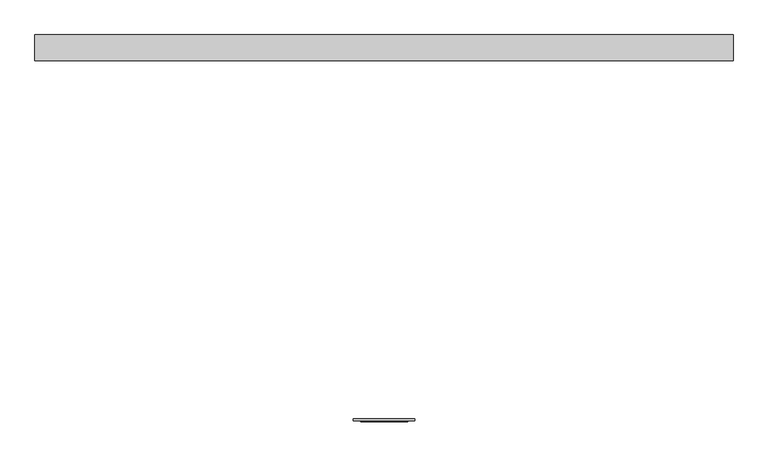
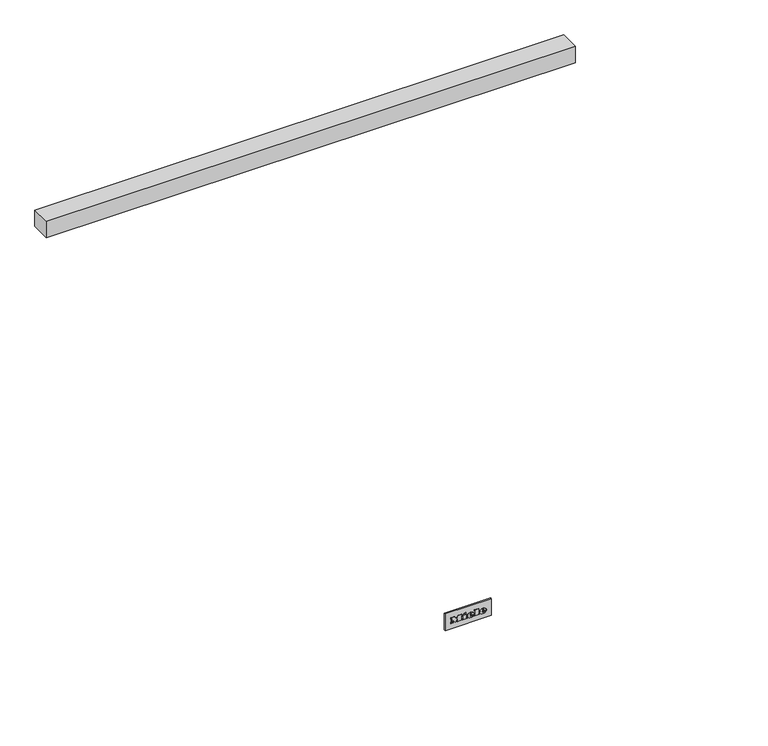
"""IFC4 building model written with IfcOpenShell, lengths in millimetres: proxy geometry, 11791680_USA_HR1954-3LP_EDST-CLS : 25195482_USA_11791680_HR1954-3LP_EDST-CLS."""

from ifc_helpers import new_model, si_unit, point, frame, frame_2d, origin, place, context, project, spatial, polyline, circle_curve, ellipse_curve, trimmed, segment, composite_curve, outline, extrude, source, transform, mapped, element, save
from ifc_brep_helpers import plane_surface, cylinder_surface, revolved_surface, extruded_surface, advanced_brep


def specialty_equipment_3d400751(model_context):
    return source(origin(), model_context, "Body", "SolidModel", [
        advanced_brep(
        [(32.17, -676.0, 148.1995), (32.17, -676.0, 149.563), (41.2015, -676.0, 149.563), (25.4875, -676.0, 149.563), (29.2, -676.0, 145.0), (40.972, -676.0, 148.1995), (36.895, -676.0, 148.1995), (33.682, -676.0, 146.6875), (32.17, -676.0, 151.291), (32.17, -676.0, 152.7625), (34.4785, -676.0, 152.7625), (34.4785, -676.0, 151.291), (32.17, -675.0, 148.1995), (33.682, -675.0, 146.6875), (36.895, -675.0, 148.1995), (40.972, -675.0, 148.1995), (29.2, -675.0, 145.0), (25.4875, -675.0, 149.563), (41.2015, -675.0, 149.563), (32.17, -675.0, 149.563), (32.17, -675.0, 151.291), (34.4785, -675.0, 151.291), (34.4785, -675.0, 152.7625), (32.17, -675.0, 152.7625)],
        [
            (0, 1),
            (1, 2),
            (2, 3, ellipse_curve(frame((33.3445, -676.0, 149.563), z_axis=(0.0, -1.0, 0.0), x_axis=(-1.0, 0.0, 0.0)), 7.857, 6.4935)),
            (3, 4, circle_curve(frame((30.7120736, -676.0, 150.022), z_axis=(0.0, -1.0, 0.0), x_axis=(0.0, 0.0, -1.0)), 5.2446974)),
            (4, 5, circle_curve(frame((33.1872142, -676.0, 153.586), z_axis=(0.0, -1.0, 0.0), x_axis=(0.0, 0.0, -1.0)), 9.46664)),
            (5, 6),
            (6, 7, circle_curve(frame((34.3419118, -676.0, 149.455), z_axis=(0.0, 1.0, 0.0), x_axis=(0.0, 0.0, -1.0)), 2.8450905)),
            (7, 0, circle_curve(frame((33.682, -676.0, 148.1995), z_axis=(0.0, 1.0, 0.0), x_axis=(0.0, 0.0, -1.0)), 1.512)),
            (8, 9),
            (9, 10, circle_curve(frame((33.32425, -676.0, 152.7625), z_axis=(0.0, 1.0, 0.0), x_axis=(0.0, 0.0, -1.0)), 1.15425)),
            (10, 11),
            (11, 8),
            (12, 13, circle_curve(frame((33.682, -675.0, 148.1995), z_axis=(0.0, -1.0, 0.0), x_axis=(0.0, 0.0, -1.0)), 1.512)),
            (13, 14, circle_curve(frame((34.3419118, -675.0, 149.455), z_axis=(0.0, -1.0, 0.0), x_axis=(0.0, 0.0, -1.0)), 2.8450905)),
            (14, 15),
            (15, 16, circle_curve(frame((33.1872142, -675.0, 153.586), z_axis=(0.0, 1.0, 0.0), x_axis=(0.0, 0.0, -1.0)), 9.46664)),
            (16, 17, circle_curve(frame((30.7120736, -675.0, 150.022), z_axis=(0.0, 1.0, 0.0), x_axis=(0.0, 0.0, -1.0)), 5.2446974)),
            (17, 18, ellipse_curve(frame((33.3445, -675.0, 149.563), z_axis=(0.0, 1.0, 0.0), x_axis=(-1.0, 0.0, 0.0)), 7.857, 6.4935)),
            (18, 19),
            (19, 12),
            (20, 21),
            (21, 22),
            (22, 23, circle_curve(frame((33.32425, -675.0, 152.7625), z_axis=(0.0, -1.0, 0.0), x_axis=(0.0, 0.0, -1.0)), 1.15425)),
            (23, 20),
            (0, 12),
            (19, 1),
            (18, 2),
            (5, 15),
            (14, 6),
            (17, 3),
            (13, 7),
            (16, 4),
            (8, 20),
            (23, 9),
            (22, 10),
            (21, 11),
        ],
        [
            plane_surface(frame((32.17, -676.0, 149.563), z_axis=(0.0, -1.0, 0.0), x_axis=(0.0, 0.0, 1.0))),
            plane_surface(frame((32.17, -675.0, 149.563), z_axis=(0.0, 1.0, 0.0), x_axis=(0.0, 0.0, -1.0))),
            plane_surface(frame((32.17, -676.0, 148.1995), z_axis=(1.0, 0.0, 0.0), x_axis=(0.0, 1.0, 0.0))),
            plane_surface(frame((32.17, -676.0, 149.563), z_axis=(0.0, 0.0, -1.0), x_axis=(0.0, 1.0, 0.0))),
            plane_surface(frame((40.972, -676.0, 148.1995), z_axis=(0.0, 0.0, 1.0), x_axis=(0.0, 1.0, 0.0))),
            extruded_surface(trimmed(ellipse_curve(frame((33.3445, -674.0, 149.563), z_axis=(0.0, -1.0, 0.0), x_axis=(-1.0, 0.0, 0.0)), 7.857, 6.4935), [point((41.2015, -674.0, 149.563))], [point((25.4875, -674.0, 149.563))], True, "CARTESIAN"), (0.0, -1.0, 0.0), 1.0),
            revolved_surface(polyline([(34.3419118, -675.0, 146.60990950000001), (34.3419118, -676.0, 146.60990950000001)]), (34.3419118, -675.0, 149.455), (0.0, 1.0, 0.0)),
            revolved_surface(polyline([(33.682, -675.0, 146.6875), (33.682, -676.0, 146.6875)]), (33.682, -675.0, 148.1995), (0.0, 1.0, 0.0)),
            cylinder_surface(frame((30.7120736, -675.0, 150.022), z_axis=(0.0, -1.0, 0.0), x_axis=(0.0, 0.0, -1.0)), 5.2446974),
            cylinder_surface(frame((33.1872142, -675.0, 153.586), z_axis=(0.0, -1.0, 0.0), x_axis=(0.0, 0.0, -1.0)), 9.46664),
            plane_surface(frame((32.17, -676.0, 151.291), z_axis=(1.0, 0.0, 0.0), x_axis=(0.0, 1.0, 0.0))),
            revolved_surface(polyline([(33.32425, -675.0, 151.60825), (33.32425, -676.0, 151.60825)]), (33.32425, -675.0, 152.7625), (0.0, 1.0, 0.0)),
            plane_surface(frame((34.4785, -676.0, 152.7625), z_axis=(-1.0, 0.0, 0.0), x_axis=(0.0, 1.0, 0.0))),
            plane_surface(frame((34.4785, -676.0, 151.291), z_axis=(0.0, 0.0, 1.0), x_axis=(0.0, 1.0, 0.0))),
        ],
        [
            (0, [[1, 2, 3, 4, 5, 6, 7, 8], [9, 10, 11, 12]]),
            (1, [[13, 14, 15, 16, 17, 18, 19, 20], [21, 22, 23, 24]]),
            (2, [[-1, 25, -20, 26]]),
            (3, [[-2, -26, -19, 27]]),
            (4, [[-6, 28, -15, 29]]),
            (5, [[-3, -27, -18, 30]]),
            (6, [[-7, -29, -14, 31]]),
            (7, [[-8, -31, -13, -25]]),
            (8, [[-4, -30, -17, 32]]),
            (9, [[-5, -32, -16, -28]]),
            (10, [[-9, 33, -24, 34]]),
            (11, [[-10, -34, -23, 35]]),
            (12, [[-11, -35, -22, 36]]),
            (13, [[-12, -36, -21, -33]]),
        ],
    ),
        advanced_brep(
        [(3.9955, -676.0, 148.1995), (3.9955, -676.0, 149.563), (13.027, -676.0, 149.563), (-2.687, -676.0, 149.563), (1.0255, -676.0, 145.0), (12.7975, -676.0, 148.1995), (8.7205, -676.0, 148.1995), (5.5075, -676.0, 146.6875), (3.9955, -676.0, 151.291), (3.9955, -676.0, 152.7625), (6.304, -676.0, 152.7625), (6.304, -676.0, 151.291), (3.9955, -675.0, 148.1995), (5.5075, -675.0, 146.6875), (8.7205, -675.0, 148.1995), (12.7975, -675.0, 148.1995), (1.0255, -675.0, 145.0), (-2.687, -675.0, 149.563), (13.027, -675.0, 149.563), (3.9955, -675.0, 149.563), (3.9955, -675.0, 151.291), (6.304, -675.0, 151.291), (6.304, -675.0, 152.7625), (3.9955, -675.0, 152.7625)],
        [
            (0, 1),
            (1, 2),
            (2, 3, ellipse_curve(frame((5.17, -676.0, 149.563), z_axis=(0.0, -1.0, 0.0), x_axis=(-1.0, 0.0, 0.0)), 7.857, 6.4935)),
            (3, 4, circle_curve(frame((2.5375736, -676.0, 150.022), z_axis=(0.0, -1.0, 0.0), x_axis=(0.0, 0.0, -1.0)), 5.2446974)),
            (4, 5, circle_curve(frame((5.0127142, -676.0, 153.586), z_axis=(0.0, -1.0, 0.0), x_axis=(0.0, 0.0, -1.0)), 9.46664)),
            (5, 6),
            (6, 7, circle_curve(frame((6.1674118, -676.0, 149.455), z_axis=(0.0, 1.0, 0.0), x_axis=(0.0, 0.0, -1.0)), 2.8450905)),
            (7, 0, circle_curve(frame((5.5075, -676.0, 148.1995), z_axis=(0.0, 1.0, 0.0), x_axis=(0.0, 0.0, -1.0)), 1.512)),
            (8, 9),
            (9, 10, circle_curve(frame((5.14975, -676.0, 152.7625), z_axis=(0.0, 1.0, 0.0), x_axis=(0.0, 0.0, -1.0)), 1.15425)),
            (10, 11),
            (11, 8),
            (12, 13, circle_curve(frame((5.5075, -675.0, 148.1995), z_axis=(0.0, -1.0, 0.0), x_axis=(0.0, 0.0, -1.0)), 1.512)),
            (13, 14, circle_curve(frame((6.1674118, -675.0, 149.455), z_axis=(0.0, -1.0, 0.0), x_axis=(0.0, 0.0, -1.0)), 2.8450905)),
            (14, 15),
            (15, 16, circle_curve(frame((5.0127142, -675.0, 153.586), z_axis=(0.0, 1.0, 0.0), x_axis=(0.0, 0.0, -1.0)), 9.46664)),
            (16, 17, circle_curve(frame((2.5375736, -675.0, 150.022), z_axis=(0.0, 1.0, 0.0), x_axis=(0.0, 0.0, -1.0)), 5.2446974)),
            (17, 18, ellipse_curve(frame((5.17, -675.0, 149.563), z_axis=(0.0, 1.0, 0.0), x_axis=(-1.0, 0.0, 0.0)), 7.857, 6.4935)),
            (18, 19),
            (19, 12),
            (20, 21),
            (21, 22),
            (22, 23, circle_curve(frame((5.14975, -675.0, 152.7625), z_axis=(0.0, -1.0, 0.0), x_axis=(0.0, 0.0, -1.0)), 1.15425)),
            (23, 20),
            (0, 12),
            (19, 1),
            (18, 2),
            (5, 15),
            (14, 6),
            (17, 3),
            (13, 7),
            (16, 4),
            (8, 20),
            (23, 9),
            (22, 10),
            (21, 11),
        ],
        [
            plane_surface(frame((3.9955, -676.0, 149.563), z_axis=(0.0, -1.0, 0.0), x_axis=(0.0, 0.0, 1.0))),
            plane_surface(frame((3.9955, -675.0, 149.563), z_axis=(0.0, 1.0, 0.0), x_axis=(0.0, 0.0, -1.0))),
            plane_surface(frame((3.9955, -676.0, 148.1995), z_axis=(1.0, 0.0, 0.0), x_axis=(0.0, 1.0, 0.0))),
            plane_surface(frame((3.9955, -676.0, 149.563), z_axis=(0.0, 0.0, -1.0), x_axis=(0.0, 1.0, 0.0))),
            plane_surface(frame((12.7975, -676.0, 148.1995), z_axis=(0.0, 0.0, 1.0), x_axis=(0.0, 1.0, 0.0))),
            extruded_surface(trimmed(ellipse_curve(frame((5.17, -674.0, 149.563), z_axis=(0.0, -1.0, 0.0), x_axis=(-1.0, 0.0, 0.0)), 7.857, 6.4935), [point((13.027, -674.0, 149.563))], [point((-2.687, -674.0, 149.563))], True, "CARTESIAN"), (0.0, -1.0, 0.0), 1.0),
            revolved_surface(polyline([(6.1674118, -675.0, 146.60990950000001), (6.1674118, -676.0, 146.60990950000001)]), (6.1674118, -675.0, 149.455), (0.0, 1.0, 0.0)),
            revolved_surface(polyline([(5.5075, -675.0, 146.6875), (5.5075, -676.0, 146.6875)]), (5.5075, -675.0, 148.1995), (0.0, 1.0, 0.0)),
            cylinder_surface(frame((2.5375736, -675.0, 150.022), z_axis=(0.0, -1.0, 0.0), x_axis=(0.0, 0.0, -1.0)), 5.2446974),
            cylinder_surface(frame((5.0127142, -675.0, 153.586), z_axis=(0.0, -1.0, 0.0), x_axis=(0.0, 0.0, -1.0)), 9.46664),
            plane_surface(frame((3.9955, -676.0, 151.291), z_axis=(1.0, 0.0, 0.0), x_axis=(0.0, 1.0, 0.0))),
            revolved_surface(polyline([(5.14975, -675.0, 151.60825), (5.14975, -676.0, 151.60825)]), (5.14975, -675.0, 152.7625), (0.0, 1.0, 0.0)),
            plane_surface(frame((6.304, -676.0, 152.7625), z_axis=(-1.0, 0.0, 0.0), x_axis=(0.0, 1.0, 0.0))),
            plane_surface(frame((6.304, -676.0, 151.291), z_axis=(0.0, 0.0, 1.0), x_axis=(0.0, 1.0, 0.0))),
        ],
        [
            (0, [[1, 2, 3, 4, 5, 6, 7, 8], [9, 10, 11, 12]]),
            (1, [[13, 14, 15, 16, 17, 18, 19, 20], [21, 22, 23, 24]]),
            (2, [[-1, 25, -20, 26]]),
            (3, [[-2, -26, -19, 27]]),
            (4, [[-6, 28, -15, 29]]),
            (5, [[-3, -27, -18, 30]]),
            (6, [[-7, -29, -14, 31]]),
            (7, [[-8, -31, -13, -25]]),
            (8, [[-4, -30, -17, 32]]),
            (9, [[-5, -32, -16, -28]]),
            (10, [[-9, 33, -24, 34]]),
            (11, [[-10, -34, -23, 35]]),
            (12, [[-11, -35, -22, 36]]),
            (13, [[-12, -36, -21, -33]]),
        ],
    ),
        extrude(outline(polyline([(157.7035, -10.76), (155.5165, -9.734), (157.6495, -5.1575), (159.8365, -6.17), (157.7035, -10.76)])), frame((0.0, -676.0, 0.0), z_axis=(0.0, 1.0, 0.0), x_axis=(0.0, 0.0, 1.0)), (0.0, 0.0, 1.0), 1.0),
        extrude(outline(polyline([(155.2195, -14.0945), (152.803, -14.0945), (152.803, -12.488), (147.268, -12.488), (147.268, -14.0945), (145.0, -14.0945), (145.0, -3.443), (147.268, -3.443), (147.268, -5.009), (155.2195, -5.009), (155.2195, -14.0945)])), frame((0.0, -676.0, 0.0), z_axis=(0.0, 1.0, 0.0), x_axis=(0.0, 0.0, 1.0)), (0.0, 0.0, 1.0), 1.0),
        extrude(outline(polyline([(156.2995, 13.783), (156.2995, 15.403), (147.268, 15.403), (147.268, 13.783), (145.0, 13.783), (145.0, 24.7315), (147.268, 24.7315), (147.268, 23.071), (158.5, 23.071), (158.5, 13.783), (156.2995, 13.783)])), frame((0.0, -676.0, 0.0), z_axis=(0.0, 1.0, 0.0), x_axis=(0.0, 0.0, 1.0)), (0.0, 0.0, 1.0), 1.0),
        extrude(outline(polyline([(156.2995, -41.0), (156.2995, -39.3665), (147.268, -39.3665), (147.268, -41.0), (145.0, -41.0), (145.0, -35.06), (147.268, -35.06), (147.268, -36.68), (152.9756247, -36.68), (145.0, -30.6455), (153.2527223, -24.584), (147.268, -24.584), (147.268, -26.2445), (145.0, -26.2445), (145.0, -15.4715), (147.268, -15.4715), (147.268, -17.186), (156.2995, -17.186), (156.2995, -15.4715), (158.5, -15.4715), (158.5, -23.693), (153.4375, -27.635), (158.5, -31.5905), (158.5, -41.0), (156.2995, -41.0)])), frame((0.0, -676.0, 0.0), z_axis=(0.0, 1.0, 0.0), x_axis=(0.0, 0.0, 1.0)), (0.0, 0.0, 1.0), 1.0),
        extrude(outline(polyline([(609.5, 0.0), (609.5, -45.0), (-609.5, -45.0), (-609.5, 0.0), (609.5, 0.0)])), frame((0.0, 0.0, 902.0), z_axis=(0.0, 0.0, 1.0), x_axis=(1.0, 0.0, 0.0)), (0.0, 0.0, 1.0), 40.0),
        extrude(outline(composite_curve([segment(polyline([(-671.0, 131.0), (-674.5, 131.0)]), True, "CONTINUOUS"), segment(trimmed(circle_curve(frame_2d((-465.0137328, 151.5)), 210.4869263), [point((-674.5, 131.0))], [point((-674.5, 172.0))], False, "CARTESIAN"), True, "CONTINUOUS"), segment(polyline([(-674.5, 172.0), (-671.0, 172.0), (-671.0, 131.0)]), True, "CONTINUOUS")], self_intersect=False)), frame((-53.5, 0.0, 0.0), z_axis=(1.0, 0.0, 0.0), x_axis=(0.0, 1.0, 0.0)), (0.0, 0.0, 1.0), 107.0),
    ])


if __name__ == "__main__":
    model = new_model("IFC4")
    model_context = context("Model", 3, world=origin())
    ifc_project = project(units=[si_unit("LENGTHUNIT", "METRE", prefix="MILLI")], contexts=[model_context])
    site = spatial("IfcSite", under=ifc_project)
    building = spatial("IfcBuilding", under=site)
    placement = place(None, origin())
    specialty_equipment_shape = specialty_equipment_3d400751(model_context)
    element("IfcBuildingElementProxy", 1, Name="11791680_USA_HR1954-3LP_EDST-CLS : 25195482_USA_11791680_HR1954-3LP_EDST-CLS", ObjectType="11791680_USA_HR1954-3LP_EDST-CLS : 25195482_USA_11791680_HR1954-3LP_EDST-CLS", at=placement, inside=building, context=model_context, shape_type="MappedRepresentation", body=[
        mapped(specialty_equipment_shape, transform((0.0, 0.0, 0.0), x_axis=(1.0, 0.0, 0.0), y_axis=(0.0, 1.0, 0.0), z_axis=(0.0, 0.0, 1.0))),
    ])
    save(model, "model.ifc")
